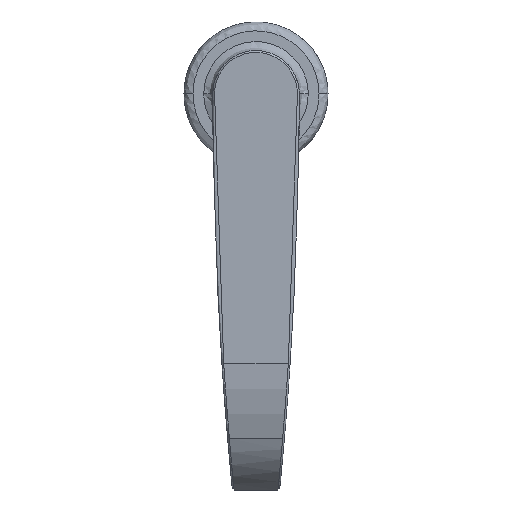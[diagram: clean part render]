
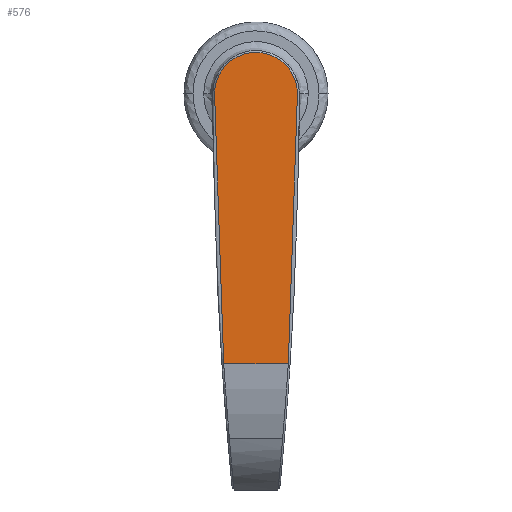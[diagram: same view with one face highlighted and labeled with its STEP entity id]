
A CAD part, top view. The second image highlights one B-rep face of the part: STEP entity #576.
In plain terms, the highlighted planar face has unit normal (0, 0, 1).
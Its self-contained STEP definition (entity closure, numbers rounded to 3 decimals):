
#576=ADVANCED_FACE('',(#1363),#12417,.T.);
#1363=FACE_OUTER_BOUND('',#2173,.T.);
#2173=EDGE_LOOP('',(#4336,#4337,#4338,#4339));
#4336=ORIENTED_EDGE('',*,*,#7598,.F.);
#4337=ORIENTED_EDGE('',*,*,#7969,.T.);
#4338=ORIENTED_EDGE('',*,*,#7967,.T.);
#4339=ORIENTED_EDGE('',*,*,#7965,.T.);
#7598=EDGE_CURVE('',#11481,#11482,#9732,.T.);
#7965=EDGE_CURVE('',#11484,#11482,#9126,.T.);
#7967=EDGE_CURVE('',#11483,#11484,#9128,.T.);
#7969=EDGE_CURVE('',#11481,#11483,#9130,.T.);
#9126=(
BOUNDED_CURVE()
B_SPLINE_CURVE(2,(#48598,#48599,#48600),.UNSPECIFIED.,.F.,.F.)
B_SPLINE_CURVE_WITH_KNOTS((3,3),(-75.007,0.),.UNSPECIFIED.)
CURVE()
GEOMETRIC_REPRESENTATION_ITEM()
RATIONAL_B_SPLINE_CURVE((1.,0.999,1.))
REPRESENTATION_ITEM('')
);
#9128=(
BOUNDED_CURVE()
B_SPLINE_CURVE(2,(#48604,#48605,#48606,#48607,#48608),.UNSPECIFIED.,.F.,
 .F.)
B_SPLINE_CURVE_WITH_KNOTS((3,2,3),(-36.128,-18.064,
0.),.UNSPECIFIED.)
CURVE()
GEOMETRIC_REPRESENTATION_ITEM()
RATIONAL_B_SPLINE_CURVE((1.,0.707,1.,0.707,1.))
REPRESENTATION_ITEM('')
);
#9130=(
BOUNDED_CURVE()
B_SPLINE_CURVE(2,(#48612,#48613,#48614),.UNSPECIFIED.,.F.,.F.)
B_SPLINE_CURVE_WITH_KNOTS((3,3),(-75.007,0.),.UNSPECIFIED.)
CURVE()
GEOMETRIC_REPRESENTATION_ITEM()
RATIONAL_B_SPLINE_CURVE((1.,0.999,1.))
REPRESENTATION_ITEM('')
);
#9732=B_SPLINE_CURVE_WITH_KNOTS('',1,(#45798,#45799),.UNSPECIFIED.,.F.,
 .F.,(2,2),(0.,17.944),.UNSPECIFIED.);
#11481=VERTEX_POINT('',#41506);
#11482=VERTEX_POINT('',#41507);
#11483=VERTEX_POINT('',#41508);
#11484=VERTEX_POINT('',#41509);
#12417=PLANE('',#13053);
#13053=AXIS2_PLACEMENT_3D('',#37906,#13650,$);
#13650=DIRECTION('',(0.,0.,1.));
#37906=CARTESIAN_POINT('',(-13.8,-83.595,36.25));
#41506=CARTESIAN_POINT('',(8.972,-74.95,36.25));
#41507=CARTESIAN_POINT('',(-8.972,-74.95,36.25));
#41508=CARTESIAN_POINT('',(11.5,0.,36.25));
#41509=CARTESIAN_POINT('',(-11.5,0.,36.25));
#45798=CARTESIAN_POINT('',(8.972,-74.95,36.25));
#45799=CARTESIAN_POINT('',(-8.972,-74.95,36.25));
#48598=CARTESIAN_POINT('',(-11.5,0.,36.25));
#48599=CARTESIAN_POINT('',(-11.5,-37.518,36.25));
#48600=CARTESIAN_POINT('',(-8.972,-74.95,36.25));
#48604=CARTESIAN_POINT('',(11.5,0.,36.25));
#48605=CARTESIAN_POINT('',(11.5,11.5,36.25));
#48606=CARTESIAN_POINT('',(0.,11.5,36.25));
#48607=CARTESIAN_POINT('',(-11.5,11.5,36.25));
#48608=CARTESIAN_POINT('',(-11.5,0.,36.25));
#48612=CARTESIAN_POINT('',(8.972,-74.95,36.25));
#48613=CARTESIAN_POINT('',(11.5,-37.518,36.25));
#48614=CARTESIAN_POINT('',(11.5,0.,36.25));
